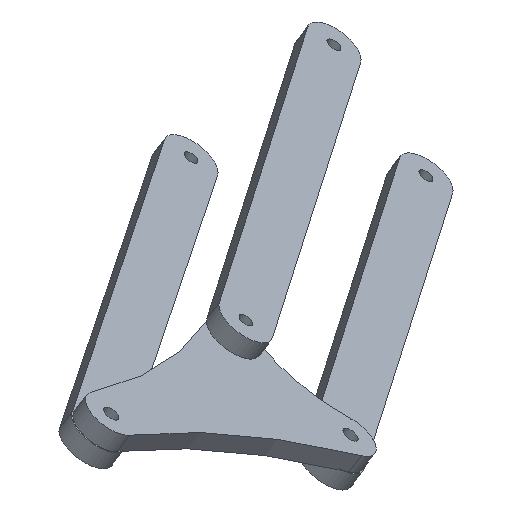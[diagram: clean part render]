
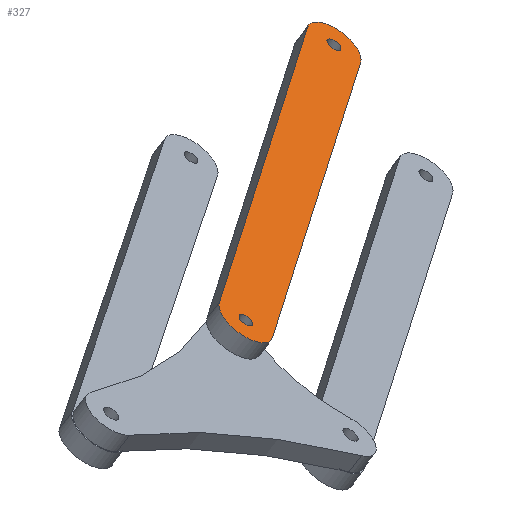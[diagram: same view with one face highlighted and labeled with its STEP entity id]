
A CAD part, left-side view. The second image highlights one B-rep face of the part: STEP entity #327.
In plain terms, the highlighted planar face has unit normal (-0.449, -0.547, 0.707) as drawn and (0, 0, 1) by its records, which use the part's own axes.
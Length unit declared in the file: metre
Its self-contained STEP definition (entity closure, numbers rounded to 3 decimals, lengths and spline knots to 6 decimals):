
#41=PLANE('',#381);
#49=LINE('',#518,#63);
#52=LINE('',#537,#66);
#63=VECTOR('',#421,1.);
#66=VECTOR('',#444,1.);
#93=ORIENTED_EDGE('',*,*,#165,.F.);
#94=ORIENTED_EDGE('',*,*,#163,.F.);
#95=ORIENTED_EDGE('',*,*,#155,.F.);
#96=ORIENTED_EDGE('',*,*,#159,.T.);
#97=ORIENTED_EDGE('',*,*,#162,.F.);
#98=ORIENTED_EDGE('',*,*,#168,.F.);
#155=EDGE_CURVE('',#195,#196,#224,.T.);
#159=EDGE_CURVE('',#195,#198,#49,.T.);
#162=EDGE_CURVE('',#200,#198,#226,.T.);
#163=EDGE_CURVE('',#201,#201,#227,.T.);
#165=EDGE_CURVE('',#203,#203,#229,.T.);
#168=EDGE_CURVE('',#196,#200,#52,.T.);
#195=VERTEX_POINT('',#509);
#196=VERTEX_POINT('',#511);
#198=VERTEX_POINT('',#517);
#200=VERTEX_POINT('',#523);
#201=VERTEX_POINT('',#527);
#203=VERTEX_POINT('',#532);
#224=CIRCLE('',#369,0.0042);
#226=CIRCLE('',#373,0.0042);
#227=CIRCLE('',#375,0.001075);
#229=CIRCLE('',#378,0.001075);
#251=EDGE_LOOP('',(#93));
#252=EDGE_LOOP('',(#94));
#253=EDGE_LOOP('',(#95,#96,#97,#98));
#285=FACE_BOUND('',#251,.T.);
#286=FACE_BOUND('',#252,.T.);
#287=FACE_BOUND('',#253,.T.);
#327=ADVANCED_FACE('',(#285,#286,#287),#41,.T.);
#369=AXIS2_PLACEMENT_3D('',#510,#414,#415);
#373=AXIS2_PLACEMENT_3D('',#524,#427,#428);
#375=AXIS2_PLACEMENT_3D('',#526,#431,#432);
#378=AXIS2_PLACEMENT_3D('',#531,#437,#438);
#381=AXIS2_PLACEMENT_3D('',#538,#445,#446);
#414=DIRECTION('',(0.,0.,-1.));
#415=DIRECTION('',(1.,0.,0.));
#421=DIRECTION('',(-1.,0.,0.));
#427=DIRECTION('',(0.,0.,-1.));
#428=DIRECTION('',(1.,0.,0.));
#431=DIRECTION('',(0.,0.,1.));
#432=DIRECTION('',(1.,0.,0.));
#437=DIRECTION('',(0.,0.,1.));
#438=DIRECTION('',(1.,0.,0.));
#444=DIRECTION('',(-1.,0.,0.));
#445=DIRECTION('',(0.,0.,1.));
#446=DIRECTION('',(1.,0.,0.));
#509=CARTESIAN_POINT('',(0.04,0.0042,0.003));
#510=CARTESIAN_POINT('',(0.04,0.,0.003));
#511=CARTESIAN_POINT('',(0.04,-0.0042,0.003));
#517=CARTESIAN_POINT('',(-0.04,0.0042,0.003));
#518=CARTESIAN_POINT('',(0.,0.0042,0.003));
#523=CARTESIAN_POINT('',(-0.04,-0.0042,0.003));
#524=CARTESIAN_POINT('',(-0.04,0.,0.003));
#526=CARTESIAN_POINT('',(-0.04,0.,0.003));
#527=CARTESIAN_POINT('',(-0.038925,0.,0.003));
#531=CARTESIAN_POINT('',(0.04,0.,0.003));
#532=CARTESIAN_POINT('',(0.041075,0.,0.003));
#537=CARTESIAN_POINT('',(0.,-0.0042,0.003));
#538=CARTESIAN_POINT('',(0.,0.,0.003));
